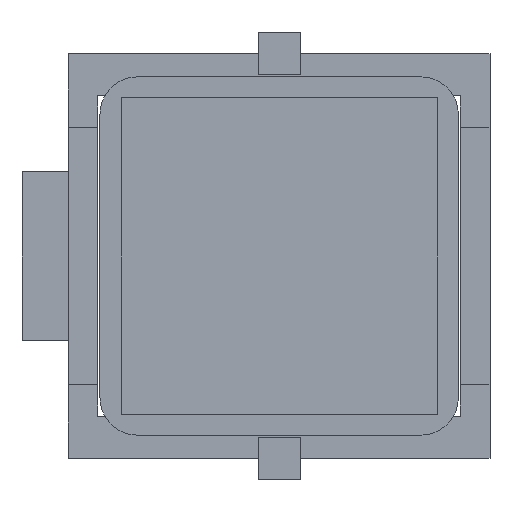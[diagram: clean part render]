
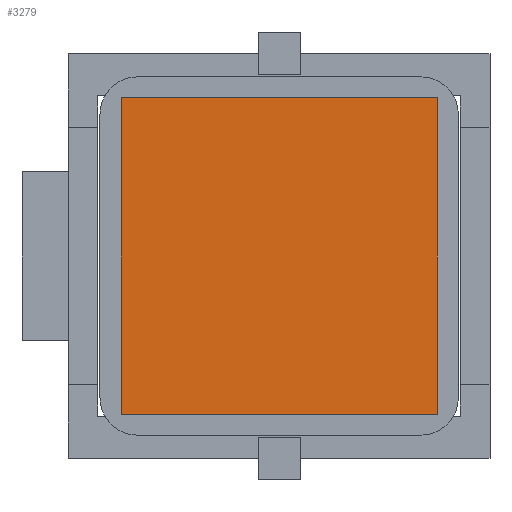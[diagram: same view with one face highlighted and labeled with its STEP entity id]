
A CAD part, front view. The second image highlights one B-rep face of the part: STEP entity #3279.
In plain terms, the highlighted planar face has unit normal (0, -1, 0).
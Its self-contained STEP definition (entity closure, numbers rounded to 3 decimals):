
#20 = VERTEX_POINT ( 'NONE', #1036 ) ;
#153 = ORIENTED_EDGE ( 'NONE', *, *, #3730, .F. ) ;
#278 = EDGE_CURVE ( 'NONE', #1566, #2818, #3643, .T. ) ;
#323 = AXIS2_PLACEMENT_3D ( 'NONE', #710, #2830, #336 ) ;
#336 = DIRECTION ( 'NONE',  ( 0., 0., 1. ) ) ;
#398 = CARTESIAN_POINT ( 'NONE',  ( 11.587, -13.936, 14.725 ) ) ;
#486 = LINE ( 'NONE', #3966, #1834 ) ;
#644 = ORIENTED_EDGE ( 'NONE', *, *, #3547, .F. ) ;
#710 = CARTESIAN_POINT ( 'NONE',  ( -3.413, -13.936, 14.725 ) ) ;
#1036 = CARTESIAN_POINT ( 'NONE',  ( -3.413, -13.936, -0.275 ) ) ;
#1328 = VECTOR ( 'NONE', #2943, 1000. ) ;
#1420 = FACE_OUTER_BOUND ( 'NONE', #2384, .T. ) ;
#1425 = LINE ( 'NONE', #1817, #1328 ) ;
#1518 = DIRECTION ( 'NONE',  ( 1., 0., 0. ) ) ;
#1566 = VERTEX_POINT ( 'NONE', #2021 ) ;
#1574 = ORIENTED_EDGE ( 'NONE', *, *, #4016, .F. ) ;
#1622 = VECTOR ( 'NONE', #3852, 1000. ) ;
#1763 = LINE ( 'NONE', #3825, #1622 ) ;
#1817 = CARTESIAN_POINT ( 'NONE',  ( -3.413, -13.936, -0.275 ) ) ;
#1834 = VECTOR ( 'NONE', #3587, 1000. ) ;
#1946 = CARTESIAN_POINT ( 'NONE',  ( 11.587, -13.936, -0.275 ) ) ;
#2021 = CARTESIAN_POINT ( 'NONE',  ( -3.413, -13.936, 14.725 ) ) ;
#2384 = EDGE_LOOP ( 'NONE', ( #644, #153, #1574, #3396 ) ) ;
#2818 = VERTEX_POINT ( 'NONE', #398 ) ;
#2830 = DIRECTION ( 'NONE',  ( 0., 1., 0. ) ) ;
#2943 = DIRECTION ( 'NONE',  ( -1., 0., 0. ) ) ;
#3240 = VECTOR ( 'NONE', #1518, 1000. ) ;
#3279 = ADVANCED_FACE ( 'NONE', ( #1420 ), #3522, .F. ) ;
#3396 = ORIENTED_EDGE ( 'NONE', *, *, #278, .F. ) ;
#3522 = PLANE ( 'NONE',  #323 ) ;
#3547 = EDGE_CURVE ( 'NONE', #20, #1566, #1763, .T. ) ;
#3587 = DIRECTION ( 'NONE',  ( 0., 0., -1. ) ) ;
#3643 = LINE ( 'NONE', #3663, #3240 ) ;
#3663 = CARTESIAN_POINT ( 'NONE',  ( -3.413, -13.936, 14.725 ) ) ;
#3730 = EDGE_CURVE ( 'NONE', #4529, #20, #1425, .T. ) ;
#3825 = CARTESIAN_POINT ( 'NONE',  ( -3.413, -13.936, -0.275 ) ) ;
#3852 = DIRECTION ( 'NONE',  ( 0., 0., 1. ) ) ;
#3966 = CARTESIAN_POINT ( 'NONE',  ( 11.587, -13.936, -0.275 ) ) ;
#4016 = EDGE_CURVE ( 'NONE', #2818, #4529, #486, .T. ) ;
#4529 = VERTEX_POINT ( 'NONE', #1946 ) ;
